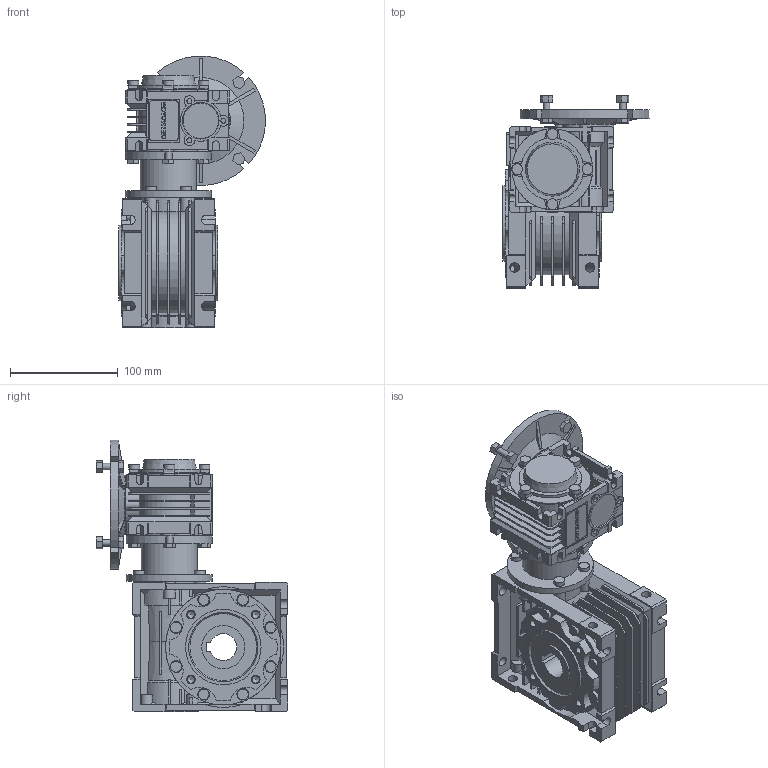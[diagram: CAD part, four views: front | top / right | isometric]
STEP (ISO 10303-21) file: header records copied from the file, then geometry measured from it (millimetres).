
FILE_DESCRIPTION(/* description */ ('STEP AP214'),/* implementation_level */ '2;1');
FILE_NAME(/* name */ 'NMRV-NMRV030-050100 (10x10)71125NO11NO00NO---(--------)',/* time_stamp */ '2024-10-22T10:29:59+02:00',/* author */ ('License CC BY-ND 4.0'),/* organization */ ('CADENAS'),/* preprocessor_version */ 'ST-DEVELOPER v19.3',/* originating_system */ 'PARTsolutions',/* authorisation */ ' ');
FILE_SCHEMA (('AUTOMOTIVE_DESIGN {1 0 10303 214 3 1 1}'));
Length unit declared in the file: millimetre
Products named in the file (13): NMRV-NMRV030-050100 (10x10)71125NO11NO00NO---(--------); 030-050100 (10x10)7114125No11No00NO---(--------)-d; 030-050100 (10x10)71125No11No00NO---d1; 030-050100 (10x10)71125No11No00T0561-d1; Gear unit 50; 050-25 (92)alc-n; VB 050-14 (14); Gear unit 30; 030-14 (63)alc-n; FT 030-050; Hollow shaft 30; VB 030-09 (9); 30-56 B5
Assembly tree (13 placements, depth 2):
  NMRV-NMRV030-050100 (10x10)71125NO11NO00NO---(--------)
    030-050100 (10x10)7114125No11No00NO---(--------)-d
    030-050100 (10x10)71125No11No00NO---d1
    030-050100 (10x10)71125No11No00T0561-d1  x2
    Gear unit 50
    050-25 (92)alc-n
    VB 050-14 (14)
    Gear unit 30
    030-14 (63)alc-n
    FT 030-050
    Hollow shaft 30
    VB 030-09 (9)
    30-56 B5
Bounding box: 135.8 x 178 x 251.8 mm (x, y, z)
Volume: 1549857.7 mm3; surface area: 365759.7 mm2
Topology: 9 solids, 21 shells, 1712 faces, 4534 edges, 2958 vertices
Faces by surface type: plane 1270, cylinder 348, cone 92, torus 2
Full cylindrical faces by diameter (mm): 3.545 x3, 3.775 x3, 4.65 x3, 4.917 x8, 5.55 x4, 6 x8, 6.647 x8, 8.8 x8, 10 x20, 16 x1, 19 x2, 24.8 x2, 28 x2, 30 x2, 34 x1, 37 x1, 38 x1, 40 x2, 47 x1, 52 x1, 55 x4, 70 x2, 75 x1, 78.5 x1, 80 x2, 107 x1
Entity records: 63948 total; most frequent: CARTESIAN_POINT 9691, ORIENTED_EDGE 8726, DIRECTION 8623, EDGE_CURVE 4363, LINE 3163, VECTOR 3163, VERTEX_POINT 2935, AXIS2_PLACEMENT_3D 2730
